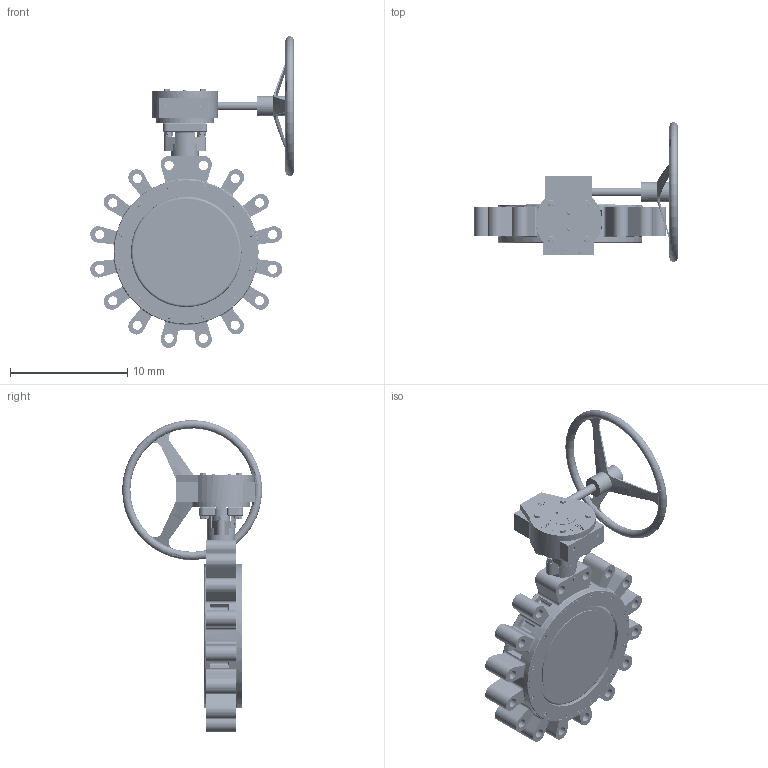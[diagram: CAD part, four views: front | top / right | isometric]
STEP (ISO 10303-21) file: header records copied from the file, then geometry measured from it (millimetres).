
FILE_DESCRIPTION(('Open CASCADE Model'),'2;1');
FILE_NAME('Open CASCADE Shape Model','2022-07-22T11:53:27',('Author'),( 'Open CASCADE'),'Open CASCADE STEP processor 7.3','Open CASCADE 7.3' ,'Unknown');
FILE_SCHEMA(('AUTOMOTIVE_DESIGN { 1 0 10303 214 1 1 1 1 }'));
Length unit declared in the file: millimetre
Products named in the file (52): Open CASCADE STEP translator 7.3 1; Open CASCADE STEP translator 7.3 1.1; Open CASCADE STEP translator 7.3 1.2; Open CASCADE STEP translator 7.3 1.3; Open CASCADE STEP translator 7.3 1.4; Open CASCADE STEP translator 7.3 1.5; Open CASCADE STEP translator 7.3 1.6; Open CASCADE STEP translator 7.3 1.7; Open CASCADE STEP translator 7.3 1.8; Open CASCADE STEP translator 7.3 1.9; Open CASCADE STEP translator 7.3 1.10; Open CASCADE STEP translator 7.3 1.11; Open CASCADE STEP translator 7.3 1.12; Open CASCADE STEP translator 7.3 1.13; Open CASCADE STEP translator 7.3 1.14; Open CASCADE STEP translator 7.3 1.15; Open CASCADE STEP translator 7.3 1.16; Open CASCADE STEP translator 7.3 1.17; Open CASCADE STEP translator 7.3 1.18; Open CASCADE STEP translator 7.3 1.19; Open CASCADE STEP translator 7.3 1.20; Open CASCADE STEP translator 7.3 1.21; Open CASCADE STEP translator 7.3 1.22; Open CASCADE STEP translator 7.3 1.23; Open CASCADE STEP translator 7.3 1.24; Open CASCADE STEP translator 7.3 1.25; Open CASCADE STEP translator 7.3 1.26; Open CASCADE STEP translator 7.3 1.27; Open CASCADE STEP translator 7.3 1.28; Open CASCADE STEP translator 7.3 1.29; Open CASCADE STEP translator 7.3 1.30; Open CASCADE STEP translator 7.3 1.31; Open CASCADE STEP translator 7.3 1.32; Open CASCADE STEP translator 7.3 1.33; Open CASCADE STEP translator 7.3 1.34; Open CASCADE STEP translator 7.3 1.35; Open CASCADE STEP translator 7.3 1.36; Open CASCADE STEP translator 7.3 1.37; Open CASCADE STEP translator 7.3 1.38; Open CASCADE STEP translator 7.3 1.39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
Assembly tree (51 placements, depth 2):
  Open CASCADE STEP translator 7.3 1
    Open CASCADE STEP translator 7.3 1.1
    Open CASCADE STEP translator 7.3 1.2
    Open CASCADE STEP translator 7.3 1.3
    Open CASCADE STEP translator 7.3 1.4
    Open CASCADE STEP translator 7.3 1.5
    Open CASCADE STEP translator 7.3 1.6
    Open CASCADE STEP translator 7.3 1.7
    Open CASCADE STEP translator 7.3 1.8
    Open CASCADE STEP translator 7.3 1.9
    Open CASCADE STEP translator 7.3 1.10
    Open CASCADE STEP translator 7.3 1.11
    Open CASCADE STEP translator 7.3 1.12
    Open CASCADE STEP translator 7.3 1.13
    Open CASCADE STEP translator 7.3 1.14
    Open CASCADE STEP translator 7.3 1.15
    Open CASCADE STEP translator 7.3 1.16
    Open CASCADE STEP translator 7.3 1.17
    Open CASCADE STEP translator 7.3 1.18
    Open CASCADE STEP translator 7.3 1.19
    Open CASCADE STEP translator 7.3 1.20
    Open CASCADE STEP translator 7.3 1.21
    Open CASCADE STEP translator 7.3 1.22
    Open CASCADE STEP translator 7.3 1.23
    Open CASCADE STEP translator 7.3 1.24
    Open CASCADE STEP translator 7.3 1.25
    Open CASCADE STEP translator 7.3 1.26
    Open CASCADE STEP translator 7.3 1.27
    Open CASCADE STEP translator 7.3 1.28
    Open CASCADE STEP translator 7.3 1.29
    Open CASCADE STEP translator 7.3 1.30
    Open CASCADE STEP translator 7.3 1.31
    Open CASCADE STEP translator 7.3 1.32
    Open CASCADE STEP translator 7.3 1.33
    Open CASCADE STEP translator 7.3 1.34
    Open CASCADE STEP translator 7.3 1.35
    Open CASCADE STEP translator 7.3 1.36
    Open CASCADE STEP translator 7.3 1.37
    Open CASCADE STEP translator 7.3 1.38
    Open CASCADE STEP translator 7.3 1.39
    Open CASCADE STEP translator 7.3 1.40
    Open CASCADE STEP translator 7.3 1.41
    Open CASCADE STEP translator 7.3 1.42
    Open CASCADE STEP translator 7.3 1.43
    Open CASCADE STEP translator 7.3 1.44
    Open CASCADE STEP translator 7.3 1.45
    Open CASCADE STEP translator 7.3 1.46
    Open CASCADE STEP translator 7.3 1.47
    Open CASCADE STEP translator 7.3 1.48
    Open CASCADE STEP translator 7.3 1.49
    Open CASCADE STEP translator 7.3 1.50
    Open CASCADE STEP translator 7.3 1.51
Bounding box: 17.35 x 11.92 x 26.57 mm (x, y, z)
Volume: 424.7 mm3; surface area: 1702.1 mm2
Topology: 51 solids, 51 shells, 1769 faces, 4262 edges, 2743 vertices
Faces by surface type: plane 725, cylinder 462, cone 407, bspline 86, torus 80, sphere 8, revolution 1
Full cylindrical faces by diameter (mm): 0.118 x1, 0.158 x3, 0.163 x2, 0.165 x2, 0.197 x6, 0.217 x24, 0.276 x2, 0.315 x14, 0.33 x4, 0.355 x24, 0.394 x126, 0.473 x6, 0.749 x2, 0.785 x16, 0.985 x1, 1.103 x1, 1.501 x9, 1.509 x1, 1.521 x1, 1.537 x1, 1.56 x2, 1.563 x2, 1.714 x2, 1.958 x2, 1.974 x4, 2.348 x1, 4.925 x1, 8.432 x2, 9.436 x1, 9.602 x1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
Entity records: 252917 total; most frequent: CARTESIAN_POINT 168089, DIRECTION 15295, ORIENTED_EDGE 8520, PCURVE 8520, DEFINITIONAL_REPRESENTATION 8520, LINE 7802, VECTOR 7802, EDGE_CURVE 4260
